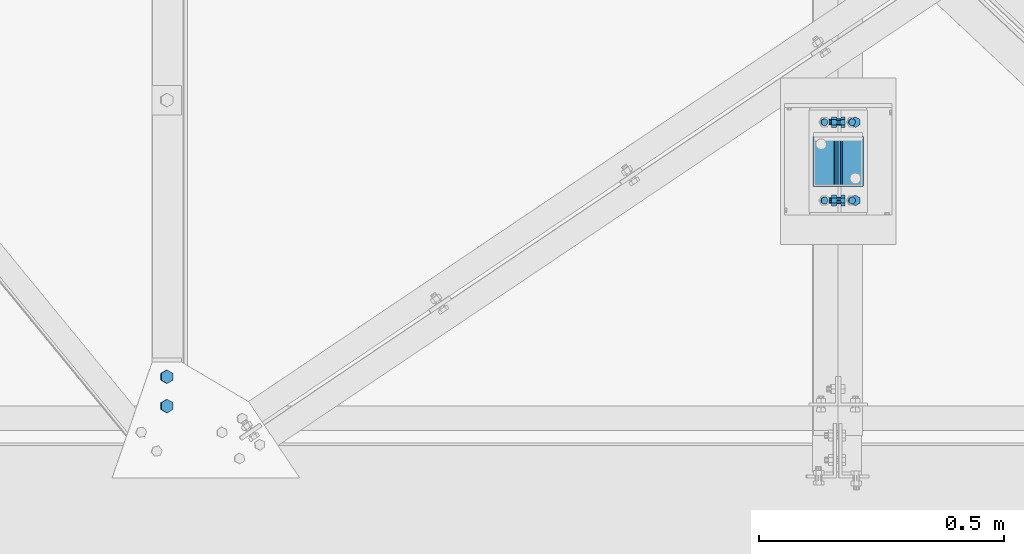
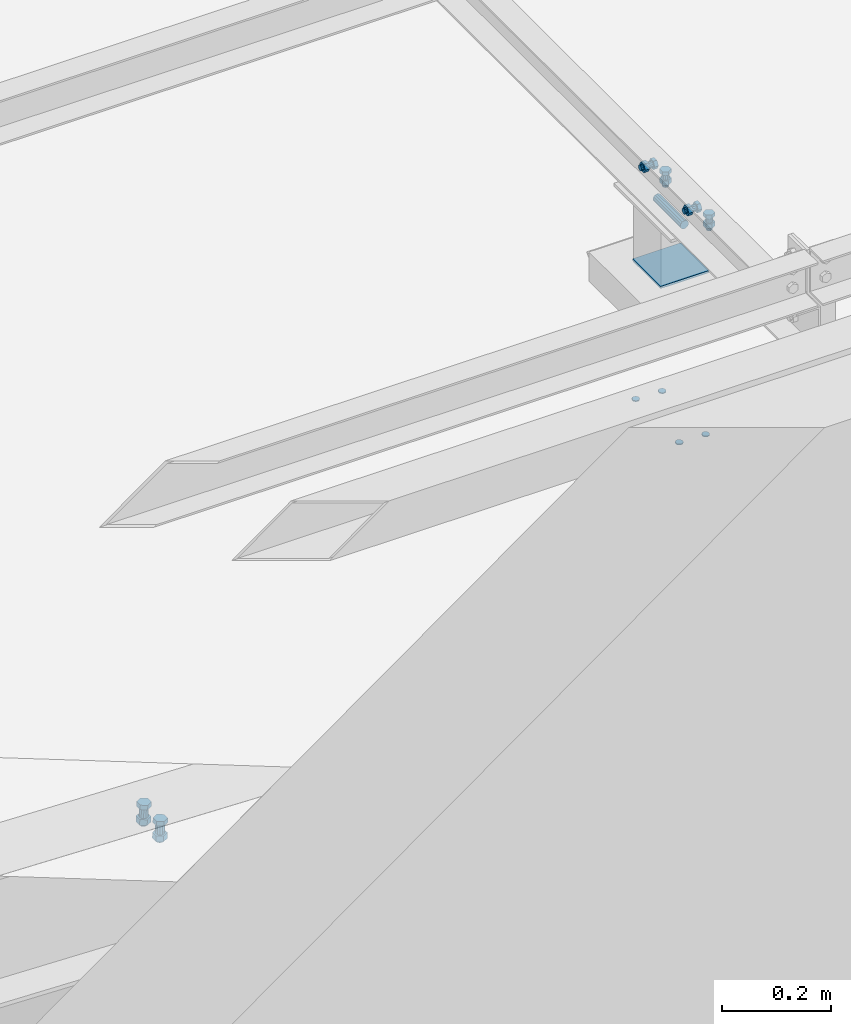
# One storey, part 308 of 3134: 6 mechanical fasteners, 4 elements without a shape of their own.
"""IFC2X3 building model written with IfcOpenShell, lengths in millimetres."""

from ifc_helpers import new_model, si_unit, frame, origin_with_axes, place, context, subcontext, project, spatial, faceted_brep, source, transform, mapped, material, type_object, element, aggregate, save


model = new_model("IFC2X3")

# Units and contexts
model_context = context("Model", 3, precision=1e-05, world=origin_with_axes())
body_context = subcontext(model_context, "Body", "Model", "MODEL_VIEW")
ifc_project = project(units=[si_unit("LENGTHUNIT", "METRE", prefix="MILLI"), si_unit("AREAUNIT", "SQUARE_METRE"), si_unit("VOLUMEUNIT", "CUBIC_METRE"), si_unit("MASSUNIT", "GRAM", prefix="KILO"), si_unit("TIMEUNIT", "SECOND"), si_unit("PLANEANGLEUNIT", "RADIAN"), si_unit("SOLIDANGLEUNIT", "STERADIAN"), si_unit("THERMODYNAMICTEMPERATUREUNIT", "DEGREE_CELSIUS"), si_unit("LUMINOUSINTENSITYUNIT", "LUMEN")], contexts=[model_context])

# Site, building, storey
site_placement = place(None, origin_with_axes())
site = spatial("IfcSite", under=ifc_project, at=site_placement, CompositionType="ELEMENT")
building_placement = place(site_placement, origin_with_axes())
building = spatial("IfcBuilding", under=site, at=building_placement, Name="Undefined", CompositionType="ELEMENT")
storey_placement = place(building_placement, origin_with_axes())
storey = spatial("IfcBuildingStorey", under=building, at=storey_placement, Name="Undefined", CompositionType="ELEMENT", Elevation=0.0)

# Assembly, mechanical fastener
assembly_1_placement = place(storey_placement, origin_with_axes())
assembly_1 = element("IfcElementAssembly", 1, at=assembly_1_placement, inside=storey, AssemblyPlace="NOTDEFINED", PredefinedType="RIGID_FRAME")
ifc_material_1 = material(Name="8.8")
mechanical_fastener_type = type_object("IfcMechanicalFastenerType", Name="Bolt assembly")
shared_shape_1 = source(origin_with_axes(), body_context, "Body", "Brep", [
    faceted_brep([(10.9696551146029, -14.0, 0.0), (5.48482755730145, -14.0, 9.5), (-5.48482755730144, -14.0, 9.5), (-10.9696551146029, -14.0, 1.34339530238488e-15), (-5.48482755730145, -14.0, -9.5), (5.48482755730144, -14.0, -9.50000000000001), (5.48482755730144, -6.0, -9.50000000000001), (-5.48482755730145, -6.0, -9.5), (-10.9696551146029, -6.0, 1.34339530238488e-15), (-5.48482755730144, -6.0, 9.5), (5.48482755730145, -6.0, 9.5), (10.9696551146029, -6.0, 0.0), (6.0, -6.0, 0.0), (5.19615242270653, -6.0, 3.00000000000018), (2.99999999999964, -6.0, 5.19615242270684), (-6.21801588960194e-13, -6.0, 6.0), (-3.00000000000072, -6.0, 5.19615242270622), (-5.19615242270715, -6.0, 2.9999999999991), (-6.0, -6.0, -1.24360317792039e-12), (-5.19615242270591, -6.0, -3.00000000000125), (-2.99999999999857, -6.0, -5.19615242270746), (1.85874342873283e-12, -6.0, -6.0), (3.00000000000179, -6.0, -5.1961524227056), (5.19615242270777, -6.0, -2.99999999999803), (5.19615242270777, 24.0, -2.99999999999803), (3.00000000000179, 24.0, -5.1961524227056), (1.85874342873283e-12, 24.0, -6.0), (-2.99999999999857, 24.0, -5.19615242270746), (-5.19615242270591, 24.0, -3.00000000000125), (-6.0, 24.0, -1.24360317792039e-12), (-5.19615242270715, 24.0, 2.9999999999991), (-3.00000000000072, 24.0, 5.19615242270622), (-6.21801588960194e-13, 24.0, 6.0), (2.99999999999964, 24.0, 5.19615242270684), (5.19615242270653, 24.0, 3.00000000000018), (6.0, 24.0, 0.0), (10.9696551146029, 6.00000000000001, 0.0), (5.48482755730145, 6.00000000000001, 9.5), (-5.48482755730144, 6.00000000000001, 9.5), (-10.9696551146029, 6.00000000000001, 1.34339530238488e-15), (-5.48482755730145, 6.00000000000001, -9.5), (5.48482755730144, 6.00000000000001, -9.50000000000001), (5.48482755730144, 16.0, -9.50000000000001), (-5.48482755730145, 16.0, -9.5), (-10.9696551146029, 16.0, 1.34339530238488e-15), (-5.48482755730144, 16.0, 9.5), (5.48482755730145, 16.0, 9.5), (10.9696551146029, 16.0, 0.0)], [[[0, 1, 2, 3, 4, 5]], [[6, 7, 8, 9, 10, 11]], [[0, 11, 10, 1]], [[1, 10, 9, 2]], [[2, 9, 8, 3]], [[3, 8, 7, 4]], [[4, 7, 6, 5]], [[5, 6, 11, 0]], [[12, 13, 14, 15, 16, 17, 18, 19, 20, 21, 22, 23]], [[24, 25, 26, 27, 28, 29, 30, 31, 32, 33, 34, 35]], [[12, 35, 34, 13]], [[13, 34, 33, 14]], [[14, 33, 32, 15]], [[15, 32, 31, 16]], [[16, 31, 30, 17]], [[17, 30, 29, 18]], [[18, 29, 28, 19]], [[19, 28, 27, 20]], [[20, 27, 26, 21]], [[21, 26, 25, 22]], [[22, 25, 24, 23]], [[23, 24, 35, 12]], [[36, 37, 38, 39, 40, 41]], [[42, 43, 44, 45, 46, 47]], [[36, 47, 46, 37]], [[37, 46, 45, 38]], [[38, 45, 44, 39]], [[39, 44, 43, 40]], [[40, 43, 42, 41]], [[41, 42, 47, 36]]]),
    faceted_brep([(7.0, -5.9, 0.0), (6.06217782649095, -5.9, 3.50000000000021), (3.49999999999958, -5.9, 6.06217782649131), (-7.25435187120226e-13, -5.9, 7.0), (-3.50000000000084, -5.9, 6.06217782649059), (-6.06217782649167, -5.9, 3.49999999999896), (-7.0, -5.9, -1.45087037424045e-12), (-6.06217782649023, -5.9, -3.50000000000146), (-3.49999999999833, -5.9, -6.06217782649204), (2.1685340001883e-12, -5.9, -7.0), (3.50000000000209, -5.9, -6.06217782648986), (6.0621778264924, -5.9, -3.4999999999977), (6.0621778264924, 0.0999999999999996, -3.4999999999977), (3.50000000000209, 0.0999999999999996, -6.06217782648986), (2.1685340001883e-12, 0.0999999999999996, -7.0), (-3.49999999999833, 0.0999999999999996, -6.06217782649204), (-6.06217782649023, 0.0999999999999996, -3.50000000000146), (-7.0, 0.0999999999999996, -1.45087037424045e-12), (-6.06217782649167, 0.0999999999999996, 3.49999999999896), (-3.50000000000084, 0.0999999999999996, 6.06217782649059), (-7.25435187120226e-13, 0.0999999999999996, 7.0), (3.49999999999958, 0.0999999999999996, 6.06217782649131), (6.06217782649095, 0.0999999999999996, 3.50000000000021), (7.0, 0.0999999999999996, 0.0), (7.0, -0.1, 0.0), (6.06217782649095, -0.1, 3.50000000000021), (3.49999999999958, -0.1, 6.06217782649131), (-7.25435187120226e-13, -0.1, 7.0), (-3.50000000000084, -0.1, 6.06217782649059), (-6.06217782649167, -0.1, 3.49999999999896), (-7.0, -0.1, -1.45087037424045e-12), (-6.06217782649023, -0.1, -3.50000000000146), (-3.49999999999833, -0.1, -6.06217782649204), (2.1685340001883e-12, -0.1, -7.0), (3.50000000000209, -0.1, -6.06217782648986), (6.0621778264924, -0.1, -3.4999999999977), (6.0621778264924, 6.00000000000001, -3.4999999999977), (3.50000000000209, 6.00000000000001, -6.06217782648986), (2.1685340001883e-12, 6.00000000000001, -7.0), (-3.49999999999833, 6.00000000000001, -6.06217782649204), (-6.06217782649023, 6.00000000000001, -3.50000000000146), (-7.0, 6.00000000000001, -1.45087037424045e-12), (-6.06217782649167, 6.00000000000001, 3.49999999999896), (-3.50000000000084, 6.00000000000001, 6.06217782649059), (-7.25435187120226e-13, 6.00000000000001, 7.0), (3.49999999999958, 6.00000000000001, 6.06217782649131), (6.06217782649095, 6.00000000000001, 3.50000000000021), (7.0, 6.00000000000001, 0.0)], [[[0, 1, 2, 3, 4, 5, 6, 7, 8, 9, 10, 11]], [[12, 13, 14, 15, 16, 17, 18, 19, 20, 21, 22, 23]], [[0, 23, 22, 1]], [[1, 22, 21, 2]], [[2, 21, 20, 3]], [[3, 20, 19, 4]], [[4, 19, 18, 5]], [[5, 18, 17, 6]], [[6, 17, 16, 7]], [[7, 16, 15, 8]], [[8, 15, 14, 9]], [[9, 14, 13, 10]], [[10, 13, 12, 11]], [[11, 12, 23, 0]], [[24, 25, 26, 27, 28, 29, 30, 31, 32, 33, 34, 35]], [[36, 37, 38, 39, 40, 41, 42, 43, 44, 45, 46, 47]], [[24, 47, 46, 25]], [[25, 46, 45, 26]], [[26, 45, 44, 27]], [[27, 44, 43, 28]], [[28, 43, 42, 29]], [[29, 42, 41, 30]], [[30, 41, 40, 31]], [[31, 40, 39, 32]], [[32, 39, 38, 33]], [[33, 38, 37, 34]], [[34, 37, 36, 35]], [[35, 36, 47, 24]]]),
])
mechanical_fastener_1_placement = place(assembly_1_placement, frame((73110.0, 570.0, 5750.0), z_axis=(-1.0, 0.0, 0.0), x_axis=(0.0, 1.0, 0.0)))
mechanical_fastener_1 = element("IfcMechanicalFastener", 2, at=mechanical_fastener_1_placement, type_object=mechanical_fastener_type, material=ifc_material_1, Name="Bolt assembly", NominalDiameter=12.0, NominalLength=30.0, context=body_context, shape_type="MappedRepresentation", body=[
    mapped(shared_shape_1, transform((0.0, 0.0, 0.0))),
    mapped(shared_shape_1, transform((160.0, 0.0, 0.0))),
])

assembly_2_placement = place(storey_placement, origin_with_axes())
assembly_2 = element("IfcElementAssembly", 3, at=assembly_2_placement, inside=storey, AssemblyPlace="NOTDEFINED", PredefinedType="RIGID_FRAME")
shared_shape_2 = source(origin_with_axes(), body_context, "Body", "Brep", [
    faceted_brep([(10.9696551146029, -14.0, 0.0), (5.48482755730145, -14.0, 9.5), (-5.48482755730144, -14.0, 9.5), (-10.9696551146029, -14.0, 1.34339530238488e-15), (-5.48482755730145, -14.0, -9.5), (5.48482755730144, -14.0, -9.50000000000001), (5.48482755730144, -6.0, -9.50000000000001), (-5.48482755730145, -6.0, -9.5), (-10.9696551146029, -6.0, 1.34339530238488e-15), (-5.48482755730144, -6.0, 9.5), (5.48482755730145, -6.0, 9.5), (10.9696551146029, -6.0, 0.0), (6.0, -6.0, 0.0), (5.19615242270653, -6.0, 3.00000000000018), (2.99999999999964, -6.0, 5.19615242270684), (-6.21801588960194e-13, -6.0, 6.0), (-3.00000000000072, -6.0, 5.19615242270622), (-5.19615242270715, -6.0, 2.9999999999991), (-6.0, -6.0, -1.24360317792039e-12), (-5.19615242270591, -6.0, -3.00000000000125), (-2.99999999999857, -6.0, -5.19615242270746), (1.85874342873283e-12, -6.0, -6.0), (3.00000000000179, -6.0, -5.1961524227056), (5.19615242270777, -6.0, -2.99999999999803), (5.19615242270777, 19.0, -2.99999999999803), (3.00000000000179, 19.0, -5.1961524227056), (1.85874342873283e-12, 19.0, -6.0), (-2.99999999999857, 19.0, -5.19615242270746), (-5.19615242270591, 19.0, -3.00000000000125), (-6.0, 19.0, -1.24360317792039e-12), (-5.19615242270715, 19.0, 2.9999999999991), (-3.00000000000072, 19.0, 5.19615242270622), (-6.21801588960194e-13, 19.0, 6.0), (2.99999999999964, 19.0, 5.19615242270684), (5.19615242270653, 19.0, 3.00000000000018), (6.0, 19.0, 0.0), (10.9696551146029, 4.00000000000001, 0.0), (5.48482755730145, 4.00000000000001, 9.5), (-5.48482755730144, 4.00000000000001, 9.5), (-10.9696551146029, 4.00000000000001, 1.34339530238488e-15), (-5.48482755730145, 4.00000000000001, -9.5), (5.48482755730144, 4.00000000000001, -9.50000000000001), (5.48482755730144, 14.0, -9.50000000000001), (-5.48482755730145, 14.0, -9.5), (-10.9696551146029, 14.0, 1.34339530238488e-15), (-5.48482755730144, 14.0, 9.5), (5.48482755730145, 14.0, 9.5), (10.9696551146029, 14.0, 0.0)], [[[0, 1, 2, 3, 4, 5]], [[6, 7, 8, 9, 10, 11]], [[0, 11, 10, 1]], [[1, 10, 9, 2]], [[2, 9, 8, 3]], [[3, 8, 7, 4]], [[4, 7, 6, 5]], [[5, 6, 11, 0]], [[12, 13, 14, 15, 16, 17, 18, 19, 20, 21, 22, 23]], [[24, 25, 26, 27, 28, 29, 30, 31, 32, 33, 34, 35]], [[12, 35, 34, 13]], [[13, 34, 33, 14]], [[14, 33, 32, 15]], [[15, 32, 31, 16]], [[16, 31, 30, 17]], [[17, 30, 29, 18]], [[18, 29, 28, 19]], [[19, 28, 27, 20]], [[20, 27, 26, 21]], [[21, 26, 25, 22]], [[22, 25, 24, 23]], [[23, 24, 35, 12]], [[36, 37, 38, 39, 40, 41]], [[42, 43, 44, 45, 46, 47]], [[36, 47, 46, 37]], [[37, 46, 45, 38]], [[38, 45, 44, 39]], [[39, 44, 43, 40]], [[40, 43, 42, 41]], [[41, 42, 47, 36]]]),
    faceted_brep([(7.0, -0.1, 0.0), (6.06217782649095, -0.1, 3.50000000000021), (3.49999999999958, -0.1, 6.06217782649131), (-7.25435187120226e-13, -0.1, 7.0), (-3.50000000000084, -0.1, 6.06217782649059), (-6.06217782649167, -0.1, 3.49999999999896), (-7.0, -0.1, -1.45087037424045e-12), (-6.06217782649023, -0.1, -3.50000000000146), (-3.49999999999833, -0.1, -6.06217782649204), (2.1685340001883e-12, -0.1, -7.0), (3.50000000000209, -0.1, -6.06217782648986), (6.0621778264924, -0.1, -3.4999999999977), (6.0621778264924, 4.00000000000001, -3.4999999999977), (3.50000000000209, 4.00000000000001, -6.06217782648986), (2.1685340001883e-12, 4.00000000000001, -7.0), (-3.49999999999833, 4.00000000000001, -6.06217782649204), (-6.06217782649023, 4.00000000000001, -3.50000000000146), (-7.0, 4.00000000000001, -1.45087037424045e-12), (-6.06217782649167, 4.00000000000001, 3.49999999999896), (-3.50000000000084, 4.00000000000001, 6.06217782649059), (-7.25435187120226e-13, 4.00000000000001, 7.0), (3.49999999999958, 4.00000000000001, 6.06217782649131), (6.06217782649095, 4.00000000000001, 3.50000000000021), (7.0, 4.00000000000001, 0.0), (7.0, -5.9, 0.0), (6.06217782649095, -5.9, 3.50000000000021), (3.49999999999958, -5.9, 6.06217782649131), (-7.25435187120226e-13, -5.9, 7.0), (-3.50000000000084, -5.9, 6.06217782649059), (-6.06217782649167, -5.9, 3.49999999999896), (-7.0, -5.9, -1.45087037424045e-12), (-6.06217782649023, -5.9, -3.50000000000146), (-3.49999999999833, -5.9, -6.06217782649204), (2.1685340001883e-12, -5.9, -7.0), (3.50000000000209, -5.9, -6.06217782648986), (6.0621778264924, -5.9, -3.4999999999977), (6.0621778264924, 0.0999999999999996, -3.4999999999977), (3.50000000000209, 0.0999999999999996, -6.06217782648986), (2.1685340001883e-12, 0.0999999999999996, -7.0), (-3.49999999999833, 0.0999999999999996, -6.06217782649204), (-6.06217782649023, 0.0999999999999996, -3.50000000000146), (-7.0, 0.0999999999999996, -1.45087037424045e-12), (-6.06217782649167, 0.0999999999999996, 3.49999999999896), (-3.50000000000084, 0.0999999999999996, 6.06217782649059), (-7.25435187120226e-13, 0.0999999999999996, 7.0), (3.49999999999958, 0.0999999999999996, 6.06217782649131), (6.06217782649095, 0.0999999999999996, 3.50000000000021), (7.0, 0.0999999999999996, 0.0)], [[[0, 1, 2, 3, 4, 5, 6, 7, 8, 9, 10, 11]], [[12, 13, 14, 15, 16, 17, 18, 19, 20, 21, 22, 23]], [[0, 23, 22, 1]], [[1, 22, 21, 2]], [[2, 21, 20, 3]], [[3, 20, 19, 4]], [[4, 19, 18, 5]], [[5, 18, 17, 6]], [[6, 17, 16, 7]], [[7, 16, 15, 8]], [[8, 15, 14, 9]], [[9, 14, 13, 10]], [[10, 13, 12, 11]], [[11, 12, 23, 0]], [[24, 25, 26, 27, 28, 29, 30, 31, 32, 33, 34, 35]], [[36, 37, 38, 39, 40, 41, 42, 43, 44, 45, 46, 47]], [[24, 47, 46, 25]], [[25, 46, 45, 26]], [[26, 45, 44, 27]], [[27, 44, 43, 28]], [[28, 43, 42, 29]], [[29, 42, 41, 30]], [[30, 41, 40, 31]], [[31, 40, 39, 32]], [[32, 39, 38, 33]], [[33, 38, 37, 34]], [[34, 37, 36, 35]], [[35, 36, 47, 24]]]),
])
mechanical_fastener_2_placement = place(assembly_2_placement, frame((73075.0, 570.0, 5785.0), z_axis=(0.0, 0.0, 1.0), x_axis=(0.0, 1.0, 0.0)))
mechanical_fastener_2 = element("IfcMechanicalFastener", 4, at=mechanical_fastener_2_placement, type_object=mechanical_fastener_type, material=ifc_material_1, Name="Bolt assembly", NominalDiameter=12.0, NominalLength=25.0, context=body_context, shape_type="MappedRepresentation", body=[
    mapped(shared_shape_2, transform((0.0, 0.0, 0.0))),
    mapped(shared_shape_2, transform((160.0, 0.0, 0.0))),
])
aggregate(assembly_2, [mechanical_fastener_2])

assembly_3_placement = place(storey_placement, origin_with_axes())
assembly_3 = element("IfcElementAssembly", 5, at=assembly_3_placement, inside=storey, AssemblyPlace="NOTDEFINED", PredefinedType="RIGID_FRAME")
shared_shape_3 = source(origin_with_axes(), body_context, "Body", "Brep", [
    faceted_brep([(7.0, 13.0000253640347, 0.0), (6.06217782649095, 13.0000253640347, 3.50000000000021), (3.49999999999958, 13.0000253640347, 6.06217782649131), (-7.25435187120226e-13, 13.0000253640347, 7.0), (-3.50000000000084, 13.0000253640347, 6.06217782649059), (-6.06217782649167, 13.0000253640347, 3.49999999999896), (-7.0, 13.0000253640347, -1.45087037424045e-12), (-6.06217782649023, 13.0000253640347, -3.50000000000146), (-3.49999999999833, 13.0000253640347, -6.06217782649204), (2.1685340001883e-12, 13.0000253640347, -7.0), (3.50000000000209, 13.0000253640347, -6.06217782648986), (6.0621778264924, 13.0000253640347, -3.4999999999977), (6.0621778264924, 15.0999999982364, -3.4999999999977), (3.50000000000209, 15.0999999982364, -6.06217782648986), (2.1685340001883e-12, 15.0999999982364, -7.0), (-3.49999999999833, 15.0999999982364, -6.06217782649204), (-6.06217782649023, 15.0999999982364, -3.50000000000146), (-7.0, 15.0999999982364, -1.45087037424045e-12), (-6.06217782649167, 15.0999999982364, 3.49999999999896), (-3.50000000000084, 15.0999999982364, 6.06217782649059), (-7.25435187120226e-13, 15.0999999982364, 7.0), (3.49999999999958, 15.0999999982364, 6.06217782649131), (6.06217782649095, 15.0999999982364, 3.50000000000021), (7.0, 15.0999999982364, 0.0)], [[[0, 1, 2, 3, 4, 5, 6, 7, 8, 9, 10, 11]], [[12, 13, 14, 15, 16, 17, 18, 19, 20, 21, 22, 23]], [[0, 23, 22, 1]], [[1, 22, 21, 2]], [[2, 21, 20, 3]], [[3, 20, 19, 4]], [[4, 19, 18, 5]], [[5, 18, 17, 6]], [[6, 17, 16, 7]], [[7, 16, 15, 8]], [[8, 15, 14, 9]], [[9, 14, 13, 10]], [[10, 13, 12, 11]], [[11, 12, 23, 0]]]),
])
mechanical_fastener_3_placement = place(assembly_3_placement, frame((73046.3602034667, 649.998364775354, 5256.59493090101), z_axis=(0.0, -1.0, 0.0), x_axis=(0.999519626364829, 0.0, -0.030992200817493)))
mechanical_fastener_3 = element("IfcMechanicalFastener", 6, at=mechanical_fastener_3_placement, type_object=mechanical_fastener_type, material=ifc_material_1, Name="Bolt assembly", NominalDiameter=12.0, NominalLength=2.0, context=body_context, shape_type="MappedRepresentation", body=[
    mapped(shared_shape_3, transform((0.0, -5.32963895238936e-10, -79.9999999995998))),
    mapped(shared_shape_3, transform((55.9999999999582, 4.54747350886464e-13, -80.0))),
    mapped(shared_shape_3, transform((0.0, 5.3114490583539e-10, 79.9999999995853))),
    mapped(shared_shape_3, transform((55.9999999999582, 4.54747350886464e-13, 80.0))),
])
aggregate(assembly_3, [mechanical_fastener_3])

# Mechanical fastener
shared_shape_4 = source(origin_with_axes(), body_context, "Body", "Brep", [
    faceted_brep([(9.0, -50.0, 0.0), (7.79422863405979, -50.0, 4.50000000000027), (4.49999999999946, -50.0, 7.79422863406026), (-9.3270238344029e-13, -50.0, 9.0), (-4.50000000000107, -50.0, 7.79422863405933), (-7.79422863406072, -50.0, 4.49999999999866), (-9.0, -50.0, -1.86540476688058e-12), (-7.79422863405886, -50.0, -4.50000000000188), (-4.49999999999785, -50.0, -7.79422863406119), (2.78811514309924e-12, -50.0, -9.0), (4.50000000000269, -50.0, -7.7942286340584), (7.79422863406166, -50.0, -4.49999999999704), (7.79422863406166, 50.1, -4.49999999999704), (4.50000000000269, 50.1, -7.7942286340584), (2.78811514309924e-12, 50.1, -9.0), (-4.49999999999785, 50.1, -7.79422863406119), (-7.79422863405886, 50.1, -4.50000000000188), (-9.0, 50.1, -1.86540476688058e-12), (-7.79422863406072, 50.1, 4.49999999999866), (-4.50000000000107, 50.1, 7.79422863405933), (-9.3270238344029e-13, 50.1, 9.0), (4.49999999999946, 50.1, 7.79422863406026), (7.79422863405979, 50.1, 4.50000000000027), (9.0, 50.1, 0.0)], [[[0, 1, 2, 3, 4, 5, 6, 7, 8, 9, 10, 11]], [[12, 13, 14, 15, 16, 17, 18, 19, 20, 21, 22, 23]], [[0, 23, 22, 1]], [[1, 22, 21, 2]], [[2, 21, 20, 3]], [[3, 20, 19, 4]], [[4, 19, 18, 5]], [[5, 18, 17, 6]], [[6, 17, 16, 7]], [[7, 16, 15, 8]], [[8, 15, 14, 9]], [[9, 14, 13, 10]], [[10, 13, 12, 11]], [[11, 12, 23, 0]]]),
])
mechanical_fastener_4_placement = place(assembly_1_placement, frame((73075.0, 650.0, 5730.0), z_axis=(-1.0, 0.0, 0.0), x_axis=(0.0, 0.0, 1.0)))
mechanical_fastener_4 = element("IfcMechanicalFastener", 7, at=mechanical_fastener_4_placement, type_object=mechanical_fastener_type, material=ifc_material_1, Name="Bolt assembly", NominalDiameter=16.0, NominalLength=100.0, context=body_context, shape_type="MappedRepresentation", body=[
    mapped(shared_shape_4, transform((0.0, 0.0, 0.0))),
])

ifc_material_2 = material(Name="6.8")
shared_shape_5 = source(origin_with_axes(), body_context, "Body", "Brep", [
    faceted_brep([(51.5, 1.36424205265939e-12, 50.0), (51.3858192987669, 1.36424205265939e-12, 50.5740251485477), (51.0606601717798, 1.36424205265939e-12, 51.0606601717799), (50.5740251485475, 1.36424205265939e-12, 51.385819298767), (-50.0000000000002, 1.36424205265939e-12, 51.5), (-50.7500000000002, 1.36424205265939e-12, 51.2990381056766), (-51.2990381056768, 1.36424205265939e-12, 50.7499999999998), (-51.5, 1.36424205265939e-12, 49.9999999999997), (-51.5, 1.36424205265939e-12, -50.0000000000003), (-51.2990381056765, 1.36424205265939e-12, -50.7500000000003), (-50.7499999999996, 1.36424205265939e-12, -51.2990381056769), (-49.9999999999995, 1.36424205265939e-12, -51.5), (50.0000000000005, 1.36424205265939e-12, -51.5), (50.7500000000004, 1.36424205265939e-12, -51.2990381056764), (51.2990381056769, 1.36424205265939e-12, -50.7499999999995), (51.5, 1.36424205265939e-12, -49.9999999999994), (51.5, 5.10000000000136, -49.9999999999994), (51.2990381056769, 5.10000000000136, -50.7499999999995), (50.7500000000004, 5.10000000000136, -51.2990381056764), (50.0000000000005, 5.10000000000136, -51.5), (-49.9999999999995, 5.10000000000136, -51.5), (-50.7499999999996, 5.10000000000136, -51.2990381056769), (-51.2990381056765, 5.10000000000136, -50.7500000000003), (-51.5, 5.10000000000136, -50.0000000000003), (-51.5, 5.10000000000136, 49.9999999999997), (-51.2990381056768, 5.10000000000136, 50.7499999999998), (-50.7500000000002, 5.10000000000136, 51.2990381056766), (-50.0000000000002, 5.10000000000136, 51.5), (50.5740251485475, 5.10000000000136, 51.385819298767), (51.0606601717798, 5.10000000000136, 51.0606601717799), (51.3858192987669, 5.10000000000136, 50.5740251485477), (51.5, 5.10000000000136, 50.0)], [[[0, 1, 2, 3, 4, 5, 6, 7, 8, 9, 10, 11, 12, 13, 14, 15]], [[16, 17, 18, 19, 20, 21, 22, 23, 24, 25, 26, 27, 28, 29, 30, 31]], [[0, 31, 30, 1]], [[1, 30, 29, 2]], [[2, 29, 28, 3]], [[3, 28, 27, 4]], [[4, 27, 26, 5]], [[5, 26, 25, 6]], [[6, 25, 24, 7]], [[7, 24, 23, 8]], [[8, 23, 22, 9]], [[9, 22, 21, 10]], [[10, 21, 20, 11]], [[11, 20, 19, 12]], [[12, 19, 18, 13]], [[13, 18, 17, 14]], [[14, 17, 16, 15]], [[15, 16, 31, 0]]]),
])
mechanical_fastener_5_placement = place(assembly_1_placement, frame((73075.0, 650.0, 5610.44), z_axis=(0.0, -1.0, 0.0), x_axis=(-1.0, 0.0, 0.0)))
mechanical_fastener_5 = element("IfcMechanicalFastener", 8, at=mechanical_fastener_5_placement, type_object=mechanical_fastener_type, material=ifc_material_2, Name="Bolt assembly", NominalDiameter=10.0, NominalLength=5.0, context=body_context, shape_type="MappedRepresentation", body=[
    mapped(shared_shape_5, transform((0.0, 0.0, 0.0))),
])

aggregate(assembly_1, [mechanical_fastener_4, mechanical_fastener_1, mechanical_fastener_5])

# Assembly, mechanical fastener
assembly_4_placement = place(storey_placement, origin_with_axes())
assembly_4 = element("IfcElementAssembly", 9, at=assembly_4_placement, inside=storey, AssemblyPlace="NOTDEFINED", PredefinedType="RIGID_FRAME")
shared_shape_6 = source(origin_with_axes(), body_context, "Body", "Brep", [
    faceted_brep([(13.856406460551, -20.9956786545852, 0.0), (6.92820323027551, -20.9956786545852, 12.0), (-6.92820323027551, -20.9956786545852, 12.0), (-13.856406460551, -20.9956786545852, 1.69692038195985e-15), (-6.92820323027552, -20.9956786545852, -12.0), (6.9282032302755, -20.9956786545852, -12.0), (6.9282032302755, -10.9956786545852, -12.0), (-6.92820323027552, -10.9956786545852, -12.0), (-13.856406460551, -10.9956786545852, 1.69692038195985e-15), (-6.92820323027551, -10.9956786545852, 12.0), (6.92820323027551, -10.9956786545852, 12.0), (13.856406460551, -10.9956786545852, 0.0), (8.0, -10.9956786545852, 0.0), (6.92820323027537, -10.9956786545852, 4.00000000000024), (3.99999999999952, -10.9956786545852, 6.92820323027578), (-8.29068785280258e-13, -10.9956786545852, 8.0), (-4.00000000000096, -10.9956786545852, 6.92820323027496), (-6.9282032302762, -10.9956786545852, 3.99999999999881), (-8.0, -10.9956786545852, -1.65813757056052e-12), (-6.92820323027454, -10.9956786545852, -4.00000000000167), (-3.99999999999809, -10.9956786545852, -6.92820323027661), (2.47832457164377e-12, -10.9956786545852, -8.0), (4.00000000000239, -10.9956786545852, -6.92820323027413), (6.92820323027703, -10.9956786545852, -3.99999999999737), (6.92820323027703, 29.0043213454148, -3.99999999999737), (4.00000000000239, 29.0043213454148, -6.92820323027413), (2.47832457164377e-12, 29.0043213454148, -8.0), (-3.99999999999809, 29.0043213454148, -6.92820323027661), (-6.92820323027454, 29.0043213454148, -4.00000000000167), (-8.0, 29.0043213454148, -1.65813757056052e-12), (-6.9282032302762, 29.0043213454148, 3.99999999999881), (-4.00000000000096, 29.0043213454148, 6.92820323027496), (-8.29068785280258e-13, 29.0043213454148, 8.0), (3.99999999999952, 29.0043213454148, 6.92820323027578), (6.92820323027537, 29.0043213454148, 4.00000000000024), (8.0, 29.0043213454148, 0.0), (13.856406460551, 11.0013213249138, 0.0), (6.92820323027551, 11.0013213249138, 12.0), (-6.92820323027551, 11.0013213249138, 12.0), (-13.856406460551, 11.0013213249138, 1.69692038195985e-15), (-6.92820323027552, 11.0013213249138, -12.0), (6.9282032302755, 11.0013213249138, -12.0), (6.9282032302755, 24.0013213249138, -12.0), (-6.92820323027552, 24.0013213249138, -12.0), (-13.856406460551, 24.0013213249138, 1.69692038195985e-15), (-6.92820323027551, 24.0013213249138, 12.0), (6.92820323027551, 24.0013213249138, 12.0), (13.856406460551, 24.0013213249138, 0.0)], [[[0, 1, 2, 3, 4, 5]], [[6, 7, 8, 9, 10, 11]], [[0, 11, 10, 1]], [[1, 10, 9, 2]], [[2, 9, 8, 3]], [[3, 8, 7, 4]], [[4, 7, 6, 5]], [[5, 6, 11, 0]], [[12, 13, 14, 15, 16, 17, 18, 19, 20, 21, 22, 23]], [[24, 25, 26, 27, 28, 29, 30, 31, 32, 33, 34, 35]], [[12, 35, 34, 13]], [[13, 34, 33, 14]], [[14, 33, 32, 15]], [[15, 32, 31, 16]], [[16, 31, 30, 17]], [[17, 30, 29, 18]], [[18, 29, 28, 19]], [[19, 28, 27, 20]], [[20, 27, 26, 21]], [[21, 26, 25, 22]], [[22, 25, 24, 23]], [[23, 24, 35, 12]], [[36, 37, 38, 39, 40, 41]], [[42, 43, 44, 45, 46, 47]], [[36, 47, 46, 37]], [[37, 46, 45, 38]], [[38, 45, 44, 39]], [[39, 44, 43, 40]], [[40, 43, 42, 41]], [[41, 42, 47, 36]]]),
    faceted_brep([(9.0, -10.8956786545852, 0.0), (7.79422863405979, -10.8956786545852, 4.50000000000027), (4.49999999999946, -10.8956786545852, 7.79422863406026), (-9.3270238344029e-13, -10.8956786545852, 9.0), (-4.50000000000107, -10.8956786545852, 7.79422863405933), (-7.79422863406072, -10.8956786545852, 4.49999999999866), (-9.0, -10.8956786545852, -1.86540476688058e-12), (-7.79422863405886, -10.8956786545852, -4.50000000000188), (-4.49999999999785, -10.8956786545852, -7.79422863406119), (2.78811514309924e-12, -10.8956786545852, -9.0), (4.50000000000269, -10.8956786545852, -7.7942286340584), (7.79422863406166, -10.8956786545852, -4.49999999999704), (7.79422863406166, -3.89567865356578, -4.49999999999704), (4.50000000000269, -3.89567865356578, -7.7942286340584), (2.78811514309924e-12, -3.89567865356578, -9.0), (-4.49999999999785, -3.89567865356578, -7.79422863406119), (-7.79422863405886, -3.89567865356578, -4.50000000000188), (-9.0, -3.89567865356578, -1.86540476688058e-12), (-7.79422863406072, -3.89567865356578, 4.49999999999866), (-4.50000000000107, -3.89567865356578, 7.79422863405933), (-9.3270238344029e-13, -3.89567865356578, 9.0), (4.49999999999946, -3.89567865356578, 7.79422863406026), (7.79422863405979, -3.89567865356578, 4.50000000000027), (9.0, -3.89567865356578, 0.0), (9.0, 3.90132132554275, 0.0), (7.79422863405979, 3.90132132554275, 4.50000000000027), (4.49999999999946, 3.90132132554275, 7.79422863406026), (-9.3270238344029e-13, 3.90132132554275, 9.0), (-4.50000000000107, 3.90132132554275, 7.79422863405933), (-7.79422863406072, 3.90132132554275, 4.49999999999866), (-9.0, 3.90132132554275, -1.86540476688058e-12), (-7.79422863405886, 3.90132132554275, -4.50000000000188), (-4.49999999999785, 3.90132132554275, -7.79422863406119), (2.78811514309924e-12, 3.90132132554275, -9.0), (4.50000000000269, 3.90132132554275, -7.7942286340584), (7.79422863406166, 3.90132132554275, -4.49999999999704), (7.79422863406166, 11.0013213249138, -4.49999999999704), (4.50000000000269, 11.0013213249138, -7.7942286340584), (2.78811514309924e-12, 11.0013213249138, -9.0), (-4.49999999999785, 11.0013213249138, -7.79422863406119), (-7.79422863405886, 11.0013213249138, -4.50000000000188), (-9.0, 11.0013213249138, -1.86540476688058e-12), (-7.79422863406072, 11.0013213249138, 4.49999999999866), (-4.50000000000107, 11.0013213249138, 7.79422863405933), (-9.3270238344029e-13, 11.0013213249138, 9.0), (4.49999999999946, 11.0013213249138, 7.79422863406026), (7.79422863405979, 11.0013213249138, 4.50000000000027), (9.0, 11.0013213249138, 0.0), (9.0, -3.99999624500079, 0.0), (7.79422863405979, -3.99999624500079, 4.50000000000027), (4.49999999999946, -3.99999624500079, 7.79422863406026), (-9.3270238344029e-13, -3.99999624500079, 9.0), (-4.50000000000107, -3.99999624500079, 7.79422863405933), (-7.79422863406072, -3.99999624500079, 4.49999999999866), (-9.0, -3.99999624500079, -1.86540476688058e-12), (-7.79422863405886, -3.99999624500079, -4.50000000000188), (-4.49999999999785, -3.99999624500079, -7.79422863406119), (2.78811514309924e-12, -3.99999624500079, -9.0), (4.50000000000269, -3.99999624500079, -7.7942286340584), (7.79422863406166, -3.99999624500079, -4.49999999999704), (7.79422863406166, 4.00000375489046, -4.49999999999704), (4.50000000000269, 4.00000375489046, -7.7942286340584), (2.78811514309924e-12, 4.00000375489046, -9.0), (-4.49999999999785, 4.00000375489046, -7.79422863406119), (-7.79422863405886, 4.00000375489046, -4.50000000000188), (-9.0, 4.00000375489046, -1.86540476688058e-12), (-7.79422863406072, 4.00000375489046, 4.49999999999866), (-4.50000000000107, 4.00000375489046, 7.79422863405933), (-9.3270238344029e-13, 4.00000375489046, 9.0), (4.49999999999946, 4.00000375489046, 7.79422863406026), (7.79422863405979, 4.00000375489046, 4.50000000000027), (9.0, 4.00000375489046, 0.0)], [[[0, 1, 2, 3, 4, 5, 6, 7, 8, 9, 10, 11]], [[12, 13, 14, 15, 16, 17, 18, 19, 20, 21, 22, 23]], [[0, 23, 22, 1]], [[1, 22, 21, 2]], [[2, 21, 20, 3]], [[3, 20, 19, 4]], [[4, 19, 18, 5]], [[5, 18, 17, 6]], [[6, 17, 16, 7]], [[7, 16, 15, 8]], [[8, 15, 14, 9]], [[9, 14, 13, 10]], [[10, 13, 12, 11]], [[11, 12, 23, 0]], [[24, 25, 26, 27, 28, 29, 30, 31, 32, 33, 34, 35]], [[36, 37, 38, 39, 40, 41, 42, 43, 44, 45, 46, 47]], [[24, 47, 46, 25]], [[25, 46, 45, 26]], [[26, 45, 44, 27]], [[27, 44, 43, 28]], [[28, 43, 42, 29]], [[29, 42, 41, 30]], [[30, 41, 40, 31]], [[31, 40, 39, 32]], [[32, 39, 38, 33]], [[33, 38, 37, 34]], [[34, 37, 36, 35]], [[35, 36, 47, 24]], [[48, 49, 50, 51, 52, 53, 54, 55, 56, 57, 58, 59]], [[60, 61, 62, 63, 64, 65, 66, 67, 68, 69, 70, 71]], [[48, 71, 70, 49]], [[49, 70, 69, 50]], [[50, 69, 68, 51]], [[51, 68, 67, 52]], [[52, 67, 66, 53]], [[53, 66, 65, 54]], [[54, 65, 64, 55]], [[55, 64, 63, 56]], [[56, 63, 62, 57]], [[57, 62, 61, 58]], [[58, 61, 60, 59]], [[59, 60, 71, 48]]]),
])
mechanical_fastener_6_placement = place(assembly_4_placement, frame((71703.8553204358, 149.999999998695, 5132.63706976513), z_axis=(-0.99951990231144, 0.0, 0.0309833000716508), x_axis=(0.0, 1.0, 0.0)))
mechanical_fastener_6 = element("IfcMechanicalFastener", 10, at=mechanical_fastener_6_placement, type_object=mechanical_fastener_type, material=ifc_material_1, Name="Bolt assembly", NominalDiameter=16.0, NominalLength=40.0, context=body_context, shape_type="MappedRepresentation", body=[
    mapped(shared_shape_6, transform((0.0, 0.0, 0.0))),
    mapped(shared_shape_6, transform((59.9999999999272, 0.0, 5.40239852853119e-10))),
])
aggregate(assembly_4, [mechanical_fastener_6])

save(model, "model.ifc")
